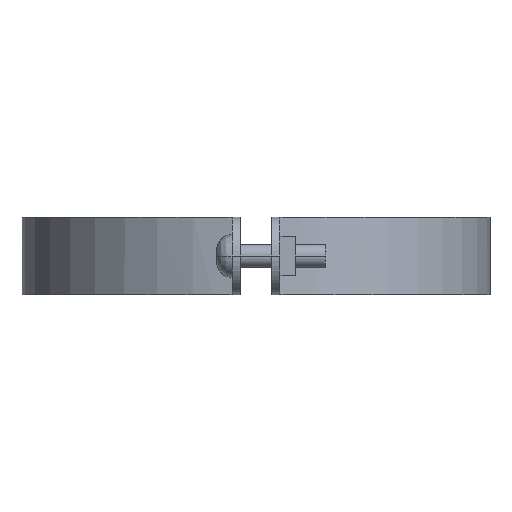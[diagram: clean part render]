
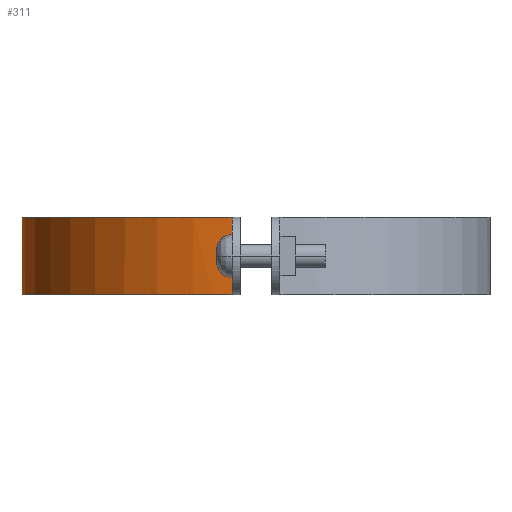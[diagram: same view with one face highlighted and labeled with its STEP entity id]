
A CAD part, left-side view. The second image highlights one B-rep face of the part: STEP entity #311.
In plain terms, the highlighted free-form (B-spline) face has degree [3, 1] with [4, 2] control points.
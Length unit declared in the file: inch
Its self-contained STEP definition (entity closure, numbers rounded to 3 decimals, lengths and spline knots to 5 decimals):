
#311=ADVANCED_FACE('',(#587),#588,.T.);
#587=FACE_OUTER_BOUND('',#1317,.T.);
#588=B_SPLINE_SURFACE_WITH_KNOTS('',3,1,((#1318,#1319),(#1320,#1321),(#1322,#1323),(#1324,#1325)),.UNSPECIFIED.,.F.,.F.,.F.,(4,4),(2,2),(0.0,1.0),(0.0,1.25),.UNSPECIFIED.);
#1317=EDGE_LOOP('',(#1920,#1921,#1922,#1923));
#1318=CARTESIAN_POINT('',(4.47011,7.246,0.0));
#1319=CARTESIAN_POINT('',(4.47011,7.246,1.25));
#1320=CARTESIAN_POINT('',(2.54233,7.246,0.0));
#1321=CARTESIAN_POINT('',(2.54233,7.246,1.25));
#1322=CARTESIAN_POINT('',(0.92675,5.7882,0.0));
#1323=CARTESIAN_POINT('',(0.92675,5.7882,1.25));
#1324=CARTESIAN_POINT('',(0.72935,3.87051,0.0));
#1325=CARTESIAN_POINT('',(0.72935,3.87051,1.25));
#1920=ORIENTED_EDGE('',*,*,#2107,.T.);
#1921=ORIENTED_EDGE('',*,*,#2187,.T.);
#1922=ORIENTED_EDGE('',*,*,#2052,.T.);
#1923=ORIENTED_EDGE('',*,*,#2208,.F.);
#2052=EDGE_CURVE('',#2365,#2363,#2366,.T.);
#2107=EDGE_CURVE('',#2443,#2455,#2457,.T.);
#2187=EDGE_CURVE('',#2455,#2365,#2568,.T.);
#2208=EDGE_CURVE('',#2443,#2363,#2592,.T.);
#2363=VERTEX_POINT('',#2844);
#2365=VERTEX_POINT('',#2847);
#2366=B_SPLINE_CURVE_WITH_KNOTS('',3,(#2848,#2849,#2850,#2851),.UNSPECIFIED.,.F.,.F.,(4,4),(-1.0,-0.0),.UNSPECIFIED.);
#2443=VERTEX_POINT('',#3005);
#2455=VERTEX_POINT('',#3025);
#2457=B_SPLINE_CURVE_WITH_KNOTS('',3,(#3028,#3029,#3030,#3031),.UNSPECIFIED.,.F.,.F.,(4,4),(0.0,1.0),.UNSPECIFIED.);
#2568=LINE('',#3233,#3234);
#2592=LINE('',#3275,#3276);
#2844=CARTESIAN_POINT('',(4.47011,7.246,1.24992));
#2847=CARTESIAN_POINT('',(0.72935,3.87051,1.24992));
#2848=CARTESIAN_POINT('',(0.72935,3.87051,1.24992));
#2849=CARTESIAN_POINT('',(0.92675,5.7882,1.24992));
#2850=CARTESIAN_POINT('',(2.54233,7.246,1.24992));
#2851=CARTESIAN_POINT('',(4.47011,7.246,1.24992));
#3005=CARTESIAN_POINT('',(4.47011,7.246,0.00011));
#3025=CARTESIAN_POINT('',(0.72935,3.87051,0.00011));
#3028=CARTESIAN_POINT('',(4.47011,7.246,0.00011));
#3029=CARTESIAN_POINT('',(2.54233,7.246,0.00011));
#3030=CARTESIAN_POINT('',(0.92675,5.7882,0.00011));
#3031=CARTESIAN_POINT('',(0.72935,3.87051,0.00011));
#3233=CARTESIAN_POINT('',(0.72935,3.87051,0.0));
#3234=VECTOR('',#3489,1.0);
#3275=CARTESIAN_POINT('',(4.47011,7.246,0.0));
#3276=VECTOR('',#3501,1.0);
#3489=DIRECTION('',(0.0,0.0,1.0));
#3501=DIRECTION('',(0.0,0.0,1.0));
